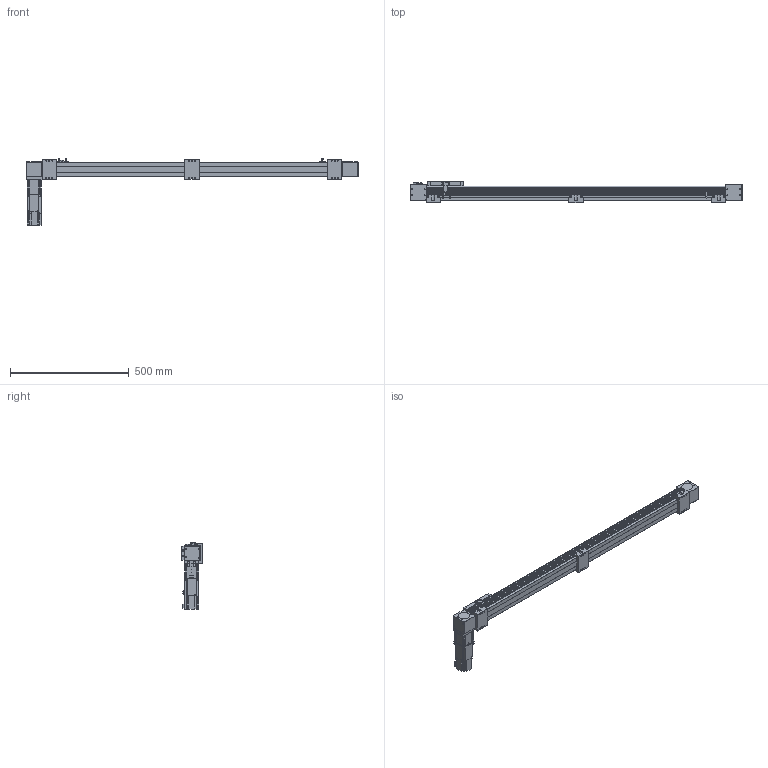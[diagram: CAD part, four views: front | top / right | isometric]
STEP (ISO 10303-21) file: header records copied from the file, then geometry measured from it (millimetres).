
FILE_DESCRIPTION(/* description */ ('STEP AP203'),/* implementation_level */ '2;1');
FILE_NAME(/* name */ 'SK60-P13-S1100-BR-T40-C1-N(0)',/* time_stamp */ '2023-04-06T03:59:42+02:00',/* author */ ('License CC BY-ND 4.0'),/* organization */ ('CADENAS'),/* preprocessor_version */ 'ST-DEVELOPER v19.3',/* originating_system */ 'PARTsolutions',/* authorisation */ ' ');
FILE_SCHEMA (('CONFIG_CONTROL_DESIGN'));
Length unit declared in the file: millimetre
Products named in the file (11): SK60-P13-S1100-BR-T40-C1-N(0); PSC140-sensor; SK60-S450_seat; SK60-S450-BL-C1_slider; SK60_body3; SK60_body6; SK60-BL_body2; T40-p1; SK60_body5; SK60_body4; SK60-S1100-BR-C1_body
Assembly tree (18 placements, depth 2):
  SK60-P13-S1100-BR-T40-C1-N(0)
    PSC140-sensor  x3
    SK60-S450_seat  x3
    SK60-S450-BL-C1_slider
    SK60_body3  x3
    SK60_body6  x2
    SK60-BL_body2  x2
    T40-p1
    SK60_body5
    SK60_body4
    SK60-S1100-BR-C1_body
Bounding box: 1400 x 90 x 279.1 mm (x, y, z)
Volume: 5383969.2 mm3; surface area: 721341.8 mm2
Topology: 18 solids, 22 shells, 878 faces, 2207 edges, 1458 vertices
Faces by surface type: plane 568, cylinder 282, cone 26, torus 2
Full cylindrical faces by diameter (mm): 2.8 x3, 3.3 x4, 4.2 x8, 4.5 x26, 4.6 x3, 4.917 x20, 5 x2, 5.478 x4, 5.5 x23, 6.5 x6, 8 x4, 8.5 x4, 9.988 x4, 10 x12, 13.556 x1, 14 x1, 14.586 x1, 19.692 x1, 38.432 x2, 43 x1, 44 x3, 47 x2, 50 x2
Entity records: 19379 total; most frequent: DIRECTION 3294, CARTESIAN_POINT 3290, ORIENTED_EDGE 3050, EDGE_CURVE 1525, AXIS2_PLACEMENT_3D 1101, LINE 1092, VECTOR 1092, VERTEX_POINT 1077
